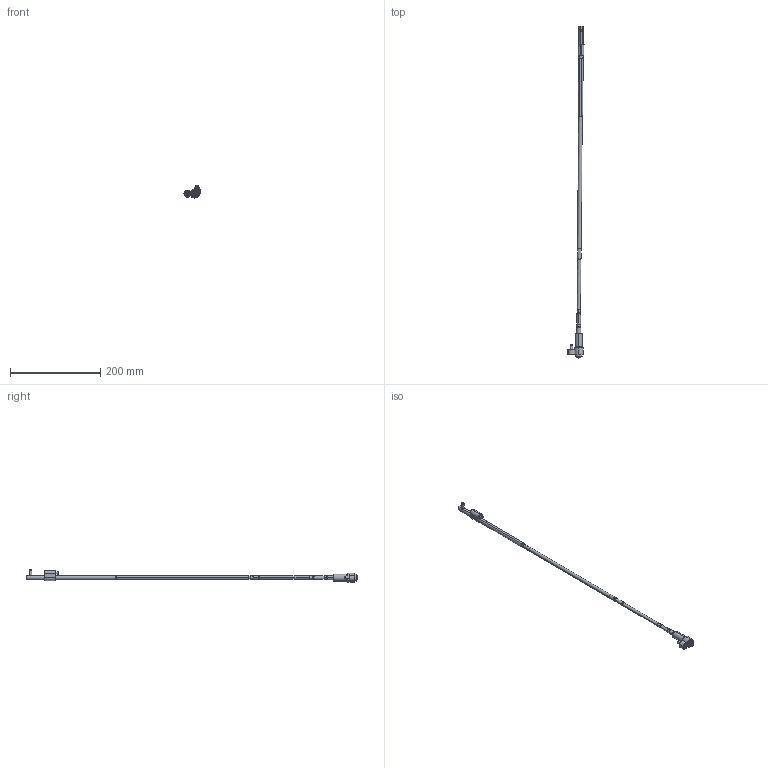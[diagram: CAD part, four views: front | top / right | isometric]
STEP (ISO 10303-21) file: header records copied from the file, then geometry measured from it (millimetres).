
FILE_DESCRIPTION (( 'STEP AP214' ), '1' );
FILE_NAME ('WL080100L-EJE 0,5°.STEP', '2021-03-19T15:23:55', ( '' ), ( '' ), 'SwSTEP 2.0', 'SolidWorks 2019', '' );
FILE_SCHEMA (( 'AUTOMOTIVE_DESIGN' ));
Length unit declared in the file: millimetre
Products named in the file (17): Web-WL08-F00.SLDPRT; Web-WL08-F01; WL080100-B1_WL0800FF-1; Web-WL08-A1; Web-WL08-A2; WL080100-B_WL0800FF; Web-WL08-A3; 3IMAN4X2-150_con sello; WL080100-C; Web-WP08-1; 9DR2206-TOR; Web-WL08XX-A7_ON-WL080100-0,5; WL080100-E; 1DIN912545_DIN 912 M5 x 50 --- 50C; WL080100L-EJE 0,5°; WL080100-D; 1DIN912616_DIN 912 M6 x 16 --- 16C
Assembly tree (16 placements, depth 3):
  WL080100L-EJE 0,5°
    Web-WP08-1
    Web-WL08XX-A7_ON-WL080100-0,5
    Web-WL08-A3
    Web-WL08-A2
    Web-WL08-A1
    WL080100-D
    WL080100-C
    WL080100-B_WL0800FF
      WL080100-B1_WL0800FF-1
      3IMAN4X2-150_con sello
    WL080100-E
    9DR2206-TOR
    Web-WL08-F00.SLDPRT
      Web-WL08-F01
      1DIN912545_DIN 912 M5 x 50 --- 50C
      1DIN912616_DIN 912 M6 x 16 --- 16C
Bounding box: 35.54 x 737.02 x 26.9 mm (x, y, z)
Volume: 57313.8 mm3; surface area: 33636.2 mm2
Topology: 15 solids, 15 shells, 424 faces, 888 edges, 516 vertices
Faces by surface type: plane 132, cylinder 128, cone 116, torus 48
Entity records: 13492 total; most frequent: DIRECTION 2218, CARTESIAN_POINT 2045, ORIENTED_EDGE 1756, AXIS2_PLACEMENT_3D 921, EDGE_CURVE 878, VERTEX_POINT 516, CIRCLE 476, EDGE_LOOP 468
